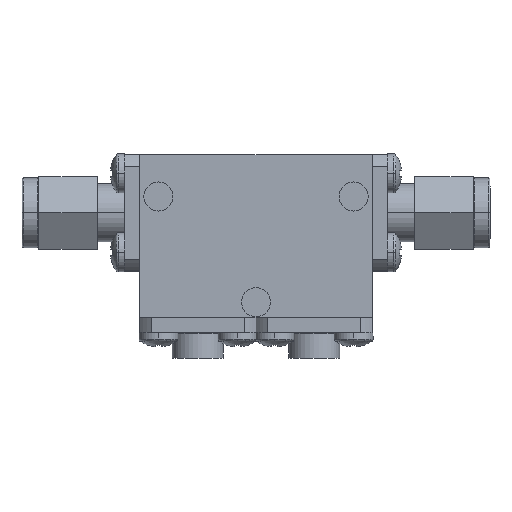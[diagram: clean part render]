
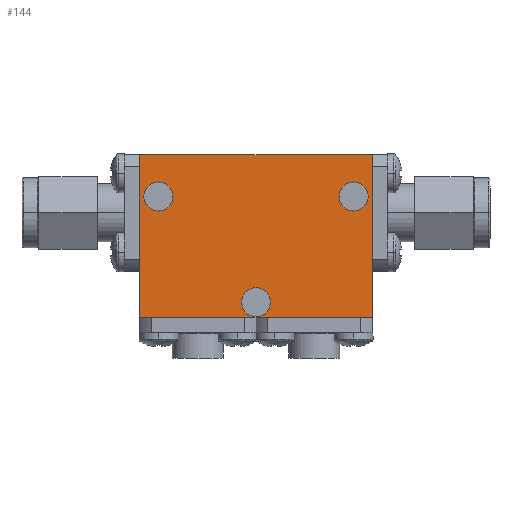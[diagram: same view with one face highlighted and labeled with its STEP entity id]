
A CAD part, top view. The second image highlights one B-rep face of the part: STEP entity #144.
In plain terms, the highlighted planar face has unit normal (0, 0, 1).
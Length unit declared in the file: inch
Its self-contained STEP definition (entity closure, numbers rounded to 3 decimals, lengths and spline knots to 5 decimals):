
#23 = DIRECTION ( 'NONE',  ( 1., 0., 0. ) ) ;
#26 = AXIS2_PLACEMENT_3D ( 'NONE', #2478, #1128, #2449 ) ;
#37 = VECTOR ( 'NONE', #1169, 39.37008 ) ;
#44 = VERTEX_POINT ( 'NONE', #3454 ) ;
#77 = AXIS2_PLACEMENT_3D ( 'NONE', #2059, #1064, #23 ) ;
#89 = DIRECTION ( 'NONE',  ( 1., 0., 0. ) ) ;
#144 = ADVANCED_FACE ( 'NONE', ( #2734, #3575, #2411, #1660 ), #2507, .T. ) ;
#153 = ORIENTED_EDGE ( 'NONE', *, *, #2675, .F. ) ;
#203 = DIRECTION ( 'NONE',  ( 0., 0., 1. ) ) ;
#227 = DIRECTION ( 'NONE',  ( 1., 0., 0. ) ) ;
#268 = EDGE_CURVE ( 'NONE', #3030, #3895, #3789, .T. ) ;
#307 = VECTOR ( 'NONE', #3628, 39.37008 ) ;
#431 = DIRECTION ( 'NONE',  ( 0., 0., 1. ) ) ;
#449 = CARTESIAN_POINT ( 'NONE',  ( -0.5, 0.35, 0.25 ) ) ;
#534 = CARTESIAN_POINT ( 'NONE',  ( 0.42, 0.17, 0.25 ) ) ;
#536 = CARTESIAN_POINT ( 'NONE',  ( -0.5, 0.35, 0.25 ) ) ;
#572 = VERTEX_POINT ( 'NONE', #1347 ) ;
#687 = VERTEX_POINT ( 'NONE', #3774 ) ;
#706 = CARTESIAN_POINT ( 'NONE',  ( 0.3575, 0.17, 0.25 ) ) ;
#796 = DIRECTION ( 'NONE',  ( 1., 0., 0. ) ) ;
#826 = EDGE_CURVE ( 'NONE', #3305, #44, #4297, .T. ) ;
#852 = EDGE_CURVE ( 'NONE', #44, #3030, #2407, .T. ) ;
#897 = VERTEX_POINT ( 'NONE', #2577 ) ;
#1047 = CIRCLE ( 'NONE', #26, 0.0625 ) ;
#1064 = DIRECTION ( 'NONE',  ( 0., 0., 1. ) ) ;
#1128 = DIRECTION ( 'NONE',  ( 0., 0., 1. ) ) ;
#1154 = CARTESIAN_POINT ( 'NONE',  ( 0., -0.285, 0.25 ) ) ;
#1163 = EDGE_LOOP ( 'NONE', ( #2288, #3390, #4033, #1750 ) ) ;
#1169 = DIRECTION ( 'NONE',  ( 0., 1., 0. ) ) ;
#1227 = DIRECTION ( 'NONE',  ( 1., 0., 0. ) ) ;
#1237 = DIRECTION ( 'NONE',  ( 1., 0., 0. ) ) ;
#1347 = CARTESIAN_POINT ( 'NONE',  ( 0.4825, 0.17, 0.25 ) ) ;
#1484 = EDGE_LOOP ( 'NONE', ( #153, #3748 ) ) ;
#1660 = FACE_OUTER_BOUND ( 'NONE', #1163, .T. ) ;
#1683 = ORIENTED_EDGE ( 'NONE', *, *, #1874, .F. ) ;
#1699 = CARTESIAN_POINT ( 'NONE',  ( 0.5, 0.35, 0.25 ) ) ;
#1707 = CIRCLE ( 'NONE', #2700, 0.0625 ) ;
#1722 = EDGE_CURVE ( 'NONE', #3895, #3305, #2142, .T. ) ;
#1748 = EDGE_CURVE ( 'NONE', #897, #687, #1862, .T. ) ;
#1750 = ORIENTED_EDGE ( 'NONE', *, *, #852, .T. ) ;
#1751 = CARTESIAN_POINT ( 'NONE',  ( -0.5, 0.35, 0.25 ) ) ;
#1862 = CIRCLE ( 'NONE', #77, 0.0625 ) ;
#1874 = EDGE_CURVE ( 'NONE', #1919, #2003, #1707, .T. ) ;
#1919 = VERTEX_POINT ( 'NONE', #3825 ) ;
#1967 = ORIENTED_EDGE ( 'NONE', *, *, #2320, .F. ) ;
#1968 = CIRCLE ( 'NONE', #2413, 0.0625 ) ;
#1970 = DIRECTION ( 'NONE',  ( 0., 0., 1. ) ) ;
#2003 = VERTEX_POINT ( 'NONE', #2783 ) ;
#2059 = CARTESIAN_POINT ( 'NONE',  ( -0.42, 0.17, 0.25 ) ) ;
#2084 = CIRCLE ( 'NONE', #3411, 0.0625 ) ;
#2094 = DIRECTION ( 'NONE',  ( -1., 0., 0. ) ) ;
#2102 = DIRECTION ( 'NONE',  ( 0., 0., 1. ) ) ;
#2142 = LINE ( 'NONE', #1751, #2925 ) ;
#2288 = ORIENTED_EDGE ( 'NONE', *, *, #268, .T. ) ;
#2320 = EDGE_CURVE ( 'NONE', #2003, #1919, #2084, .T. ) ;
#2345 = EDGE_CURVE ( 'NONE', #2584, #572, #1968, .T. ) ;
#2407 = LINE ( 'NONE', #3615, #3210 ) ;
#2411 = FACE_BOUND ( 'NONE', #2800, .T. ) ;
#2413 = AXIS2_PLACEMENT_3D ( 'NONE', #534, #203, #1237 ) ;
#2449 = DIRECTION ( 'NONE',  ( 1., 0., 0. ) ) ;
#2478 = CARTESIAN_POINT ( 'NONE',  ( 0.42, 0.17, 0.25 ) ) ;
#2486 = CARTESIAN_POINT ( 'NONE',  ( 0., 0., 0.25 ) ) ;
#2501 = EDGE_CURVE ( 'NONE', #687, #897, #3816, .T. ) ;
#2507 = PLANE ( 'NONE',  #3635 ) ;
#2559 = EDGE_LOOP ( 'NONE', ( #1683, #1967 ) ) ;
#2574 = CARTESIAN_POINT ( 'NONE',  ( 0., -0.285, 0.25 ) ) ;
#2577 = CARTESIAN_POINT ( 'NONE',  ( -0.4825, 0.17, 0.25 ) ) ;
#2584 = VERTEX_POINT ( 'NONE', #706 ) ;
#2675 = EDGE_CURVE ( 'NONE', #572, #2584, #1047, .T. ) ;
#2700 = AXIS2_PLACEMENT_3D ( 'NONE', #1154, #3146, #89 ) ;
#2734 = FACE_BOUND ( 'NONE', #1484, .T. ) ;
#2783 = CARTESIAN_POINT ( 'NONE',  ( -0.0625, -0.285, 0.25 ) ) ;
#2800 = EDGE_LOOP ( 'NONE', ( #3920, #4389 ) ) ;
#2925 = VECTOR ( 'NONE', #2094, 39.37008 ) ;
#3030 = VERTEX_POINT ( 'NONE', #4059 ) ;
#3146 = DIRECTION ( 'NONE',  ( 0., 0., 1. ) ) ;
#3210 = VECTOR ( 'NONE', #1227, 39.37008 ) ;
#3305 = VERTEX_POINT ( 'NONE', #449 ) ;
#3390 = ORIENTED_EDGE ( 'NONE', *, *, #1722, .T. ) ;
#3411 = AXIS2_PLACEMENT_3D ( 'NONE', #2574, #1970, #227 ) ;
#3454 = CARTESIAN_POINT ( 'NONE',  ( -0.5, -0.35, 0.25 ) ) ;
#3460 = CARTESIAN_POINT ( 'NONE',  ( -0.42, 0.17, 0.25 ) ) ;
#3575 = FACE_BOUND ( 'NONE', #2559, .T. ) ;
#3578 = CARTESIAN_POINT ( 'NONE',  ( 0.5, 0.35, 0.25 ) ) ;
#3615 = CARTESIAN_POINT ( 'NONE',  ( -0.5, -0.35, 0.25 ) ) ;
#3628 = DIRECTION ( 'NONE',  ( 0., -1., 0. ) ) ;
#3635 = AXIS2_PLACEMENT_3D ( 'NONE', #2486, #431, #796 ) ;
#3748 = ORIENTED_EDGE ( 'NONE', *, *, #2345, .F. ) ;
#3774 = CARTESIAN_POINT ( 'NONE',  ( -0.3575, 0.17, 0.25 ) ) ;
#3789 = LINE ( 'NONE', #3578, #37 ) ;
#3816 = CIRCLE ( 'NONE', #4301, 0.0625 ) ;
#3825 = CARTESIAN_POINT ( 'NONE',  ( 0.0625, -0.285, 0.25 ) ) ;
#3895 = VERTEX_POINT ( 'NONE', #1699 ) ;
#3920 = ORIENTED_EDGE ( 'NONE', *, *, #2501, .F. ) ;
#4033 = ORIENTED_EDGE ( 'NONE', *, *, #826, .T. ) ;
#4059 = CARTESIAN_POINT ( 'NONE',  ( 0.5, -0.35, 0.25 ) ) ;
#4119 = DIRECTION ( 'NONE',  ( 1., 0., 0. ) ) ;
#4297 = LINE ( 'NONE', #536, #307 ) ;
#4301 = AXIS2_PLACEMENT_3D ( 'NONE', #3460, #2102, #4119 ) ;
#4389 = ORIENTED_EDGE ( 'NONE', *, *, #1748, .F. ) ;
